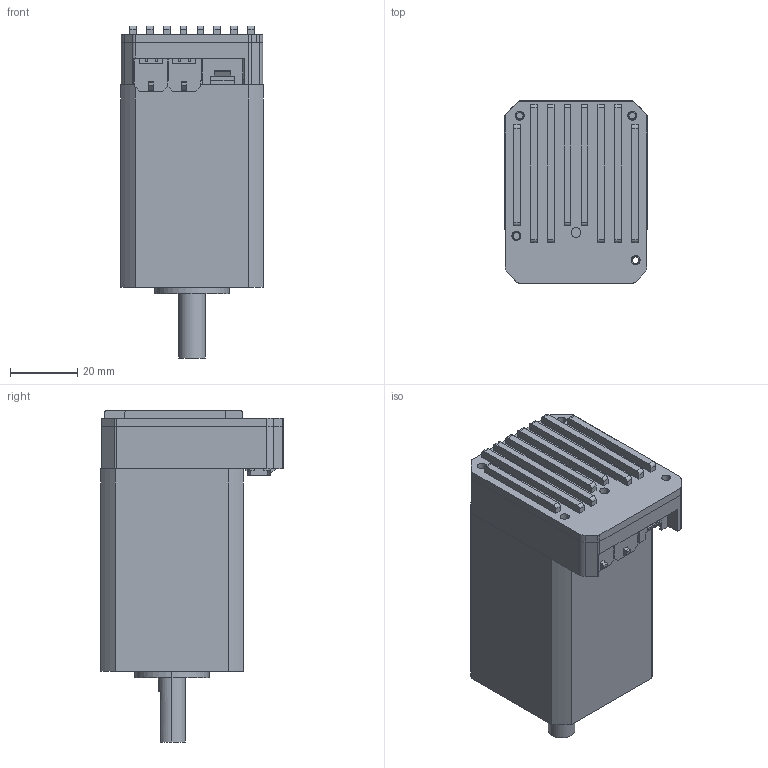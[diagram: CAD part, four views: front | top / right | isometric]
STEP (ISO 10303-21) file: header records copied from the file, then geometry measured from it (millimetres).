
FILE_DESCRIPTION (( 'STEP AP214' ), '1' );
FILE_NAME ('4260_FULL_STEP.STEP', '2023-04-05T07:15:13', ( 'shaun' ), ( '' ), 'SwSTEP 2.0', 'SolidWorks 2020', '' );
FILE_SCHEMA (( 'AUTOMOTIVE_DESIGN' ));
Length unit declared in the file: millimetre
Products named in the file (5): 42_F_LOWER_20230305; 4260_BODY; 42_PCB; 4260_FULL_STEP; 42_F_UPPER_20230305
Assembly tree (4 placements, depth 2):
  4260_FULL_STEP
    42_F_LOWER_20230305
    42_F_UPPER_20230305
    42_PCB
    4260_BODY
Bounding box: 42.2 x 54.1 x 98.5 mm (x, y, z)
Volume: 123852.3 mm3; surface area: 43598.8 mm2
Topology: 9 solids, 9 shells, 1114 faces, 2911 edges, 1876 vertices
Faces by surface type: plane 873, cylinder 233, cone 8
Entity records: 43066 total; most frequent: CARTESIAN_POINT 5908, ORIENTED_EDGE 5822, DIRECTION 5630, EDGE_CURVE 2911, VECTOR 2434, LINE 2434, VERTEX_POINT 1876, AXIS2_PLACEMENT_3D 1598
